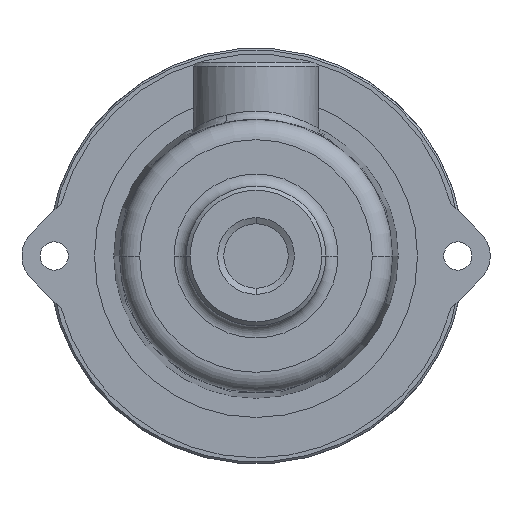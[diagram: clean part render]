
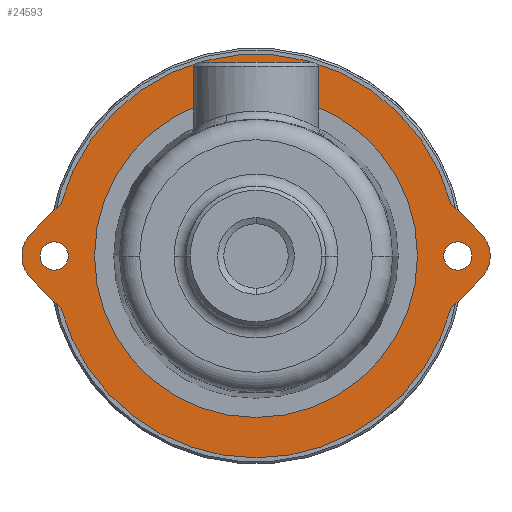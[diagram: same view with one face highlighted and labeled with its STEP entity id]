
A CAD part, front view. The second image highlights one B-rep face of the part: STEP entity #24593.
In plain terms, the highlighted planar face has unit normal (0, -1, 0) as drawn and (0, 0, 1) by its records, which use the part's own axes.
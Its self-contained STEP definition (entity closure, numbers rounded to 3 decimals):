
#11 = EDGE_CURVE ( 'NONE', #18980, #1051, #3175, .T. ) ;
#25 = EDGE_CURVE ( 'NONE', #16978, #12410, #18518, .T. ) ;
#101 = ORIENTED_EDGE ( 'NONE', *, *, #10461, .F. ) ;
#321 = VECTOR ( 'NONE', #3919, 1000. ) ;
#412 = EDGE_CURVE ( 'NONE', #19554, #16978, #1081, .T. ) ;
#419 = DIRECTION ( 'NONE',  ( 0.707, -0.707, 0. ) ) ;
#486 = AXIS2_PLACEMENT_3D ( 'NONE', #17166, #5681, #19118 ) ;
#490 = VECTOR ( 'NONE', #11690, 1000. ) ;
#619 = AXIS2_PLACEMENT_3D ( 'NONE', #1482, #14889, #3363 ) ;
#623 = EDGE_CURVE ( 'NONE', #15943, #5380, #23538, .T. ) ;
#823 = CIRCLE ( 'NONE', #486, 50. ) ;
#1028 = EDGE_CURVE ( 'NONE', #2257, #19554, #10670, .T. ) ;
#1051 = VERTEX_POINT ( 'NONE', #21048 ) ;
#1081 = LINE ( 'NONE', #5727, #490 ) ;
#1152 = DIRECTION ( 'NONE',  ( 0., 0., 1. ) ) ;
#1482 = CARTESIAN_POINT ( 'NONE',  ( 0., 0., 2. ) ) ;
#1545 = VERTEX_POINT ( 'NONE', #8453 ) ;
#1731 = FACE_BOUND ( 'NONE', #6393, .T. ) ;
#2257 = VERTEX_POINT ( 'NONE', #4159 ) ;
#2615 = DIRECTION ( 'NONE',  ( 0., 0., 1. ) ) ;
#2637 = EDGE_CURVE ( 'NONE', #14208, #20504, #10798, .T. ) ;
#2645 = AXIS2_PLACEMENT_3D ( 'NONE', #22394, #10923, #24281 ) ;
#2900 = CARTESIAN_POINT ( 'NONE',  ( -5.657, 55.657, 2. ) ) ;
#2963 = AXIS2_PLACEMENT_3D ( 'NONE', #22165, #10714, #24049 ) ;
#3065 = CARTESIAN_POINT ( 'NONE',  ( 0., -50., 2. ) ) ;
#3175 = CIRCLE ( 'NONE', #19698, 3.5 ) ;
#3359 = VERTEX_POINT ( 'NONE', #24476 ) ;
#3363 = DIRECTION ( 'NONE',  ( 1., 0., 0. ) ) ;
#3389 = CARTESIAN_POINT ( 'NONE',  ( 5.657, -55.657, 2. ) ) ;
#3544 = EDGE_LOOP ( 'NONE', ( #4182, #101 ) ) ;
#3754 = CARTESIAN_POINT ( 'NONE',  ( 0., 0., 2. ) ) ;
#3866 = ORIENTED_EDGE ( 'NONE', *, *, #15806, .F. ) ;
#3919 = DIRECTION ( 'NONE',  ( -0.707, -0.707, 0. ) ) ;
#4159 = CARTESIAN_POINT ( 'NONE',  ( 13.046, -48.268, 2. ) ) ;
#4182 = ORIENTED_EDGE ( 'NONE', *, *, #623, .F. ) ;
#4612 = ORIENTED_EDGE ( 'NONE', *, *, #11, .F. ) ;
#4794 = DIRECTION ( 'NONE',  ( 0., 0., 1. ) ) ;
#4950 = EDGE_LOOP ( 'NONE', ( #6612, #11737, #22574, #12362, #7088, #9356, #14817, #17689, #22978 ) ) ;
#5010 = DIRECTION ( 'NONE',  ( 1., 0., 0. ) ) ;
#5233 = DIRECTION ( 'NONE',  ( 0., 0., 1. ) ) ;
#5380 = VERTEX_POINT ( 'NONE', #21642 ) ;
#5681 = DIRECTION ( 'NONE',  ( 0., 0., 1. ) ) ;
#5702 = DIRECTION ( 'NONE',  ( 1., 0., 0. ) ) ;
#5727 = CARTESIAN_POINT ( 'NONE',  ( 5.657, 55.657, 2. ) ) ;
#5910 = VECTOR ( 'NONE', #419, 1000. ) ;
#6237 = FACE_OUTER_BOUND ( 'NONE', #4950, .T. ) ;
#6276 = CARTESIAN_POINT ( 'NONE',  ( 0., 0., 2. ) ) ;
#6393 = EDGE_LOOP ( 'NONE', ( #4612, #22100 ) ) ;
#6471 = EDGE_CURVE ( 'NONE', #1051, #18980, #12506, .T. ) ;
#6548 = AXIS2_PLACEMENT_3D ( 'NONE', #16273, #4794, #18246 ) ;
#6560 = VECTOR ( 'NONE', #12963, 1000. ) ;
#6612 = ORIENTED_EDGE ( 'NONE', *, *, #22969, .T. ) ;
#6868 = DIRECTION ( 'NONE',  ( 1., 0., 0. ) ) ;
#7088 = ORIENTED_EDGE ( 'NONE', *, *, #25, .T. ) ;
#7989 = AXIS2_PLACEMENT_3D ( 'NONE', #14092, #2615, #16025 ) ;
#8201 = DIRECTION ( 'NONE',  ( 1., 0., 0. ) ) ;
#8453 = CARTESIAN_POINT ( 'NONE',  ( 5.657, -55.657, 2. ) ) ;
#8779 = CARTESIAN_POINT ( 'NONE',  ( 0., 50., 2. ) ) ;
#8795 = VERTEX_POINT ( 'NONE', #17163 ) ;
#8921 = VERTEX_POINT ( 'NONE', #17344 ) ;
#9044 = EDGE_LOOP ( 'NONE', ( #13091, #3866 ) ) ;
#9356 = ORIENTED_EDGE ( 'NONE', *, *, #19475, .T. ) ;
#10461 = EDGE_CURVE ( 'NONE', #5380, #15943, #14020, .T. ) ;
#10670 = CIRCLE ( 'NONE', #22892, 50. ) ;
#10706 = EDGE_CURVE ( 'NONE', #3359, #23261, #823, .T. ) ;
#10714 = DIRECTION ( 'NONE',  ( 0., 0., 1. ) ) ;
#10798 = CIRCLE ( 'NONE', #619, 40. ) ;
#10923 = DIRECTION ( 'NONE',  ( 0., 0., 1. ) ) ;
#11310 = LINE ( 'NONE', #3389, #6560 ) ;
#11619 = LINE ( 'NONE', #17698, #5910 ) ;
#11690 = DIRECTION ( 'NONE',  ( -0.707, 0.707, 0. ) ) ;
#11737 = ORIENTED_EDGE ( 'NONE', *, *, #23609, .T. ) ;
#11741 = CARTESIAN_POINT ( 'NONE',  ( -13.046, -48.268, 2. ) ) ;
#11831 = CARTESIAN_POINT ( 'NONE',  ( 13.046, 48.268, 2. ) ) ;
#12362 = ORIENTED_EDGE ( 'NONE', *, *, #412, .T. ) ;
#12410 = VERTEX_POINT ( 'NONE', #2900 ) ;
#12506 = CIRCLE ( 'NONE', #22676, 3.5 ) ;
#12626 = DIRECTION ( 'NONE',  ( 1., 0., 0. ) ) ;
#12963 = DIRECTION ( 'NONE',  ( 0.707, 0.707, 0. ) ) ;
#13091 = ORIENTED_EDGE ( 'NONE', *, *, #2637, .F. ) ;
#13496 = CARTESIAN_POINT ( 'NONE',  ( -5.657, 55.657, 2. ) ) ;
#14020 = CIRCLE ( 'NONE', #24533, 3.5 ) ;
#14092 = CARTESIAN_POINT ( 'NONE',  ( 0., -50., 2. ) ) ;
#14208 = VERTEX_POINT ( 'NONE', #16559 ) ;
#14541 = CARTESIAN_POINT ( 'NONE',  ( 0., 50., 2. ) ) ;
#14817 = ORIENTED_EDGE ( 'NONE', *, *, #23937, .T. ) ;
#14889 = DIRECTION ( 'NONE',  ( 0., 0., 1. ) ) ;
#15682 = AXIS2_PLACEMENT_3D ( 'NONE', #6276, #19686, #8201 ) ;
#15806 = EDGE_CURVE ( 'NONE', #20504, #14208, #18470, .T. ) ;
#15835 = FACE_BOUND ( 'NONE', #9044, .T. ) ;
#15943 = VERTEX_POINT ( 'NONE', #16796 ) ;
#16025 = DIRECTION ( 'NONE',  ( 1., 0., 0. ) ) ;
#16273 = CARTESIAN_POINT ( 'NONE',  ( 0., -50., 2. ) ) ;
#16506 = DIRECTION ( 'NONE',  ( 0., 0., 1. ) ) ;
#16559 = CARTESIAN_POINT ( 'NONE',  ( -40., 0., 2. ) ) ;
#16722 = CARTESIAN_POINT ( 'NONE',  ( 0., 50., 2. ) ) ;
#16796 = CARTESIAN_POINT ( 'NONE',  ( 3.5, -50., 2. ) ) ;
#16978 = VERTEX_POINT ( 'NONE', #17756 ) ;
#17163 = CARTESIAN_POINT ( 'NONE',  ( -5.657, -55.657, 2. ) ) ;
#17166 = CARTESIAN_POINT ( 'NONE',  ( 0., 0., 2. ) ) ;
#17183 = DIRECTION ( 'NONE',  ( 0., 0., 1. ) ) ;
#17344 = CARTESIAN_POINT ( 'NONE',  ( -13.046, 48.268, 2. ) ) ;
#17689 = ORIENTED_EDGE ( 'NONE', *, *, #10706, .T. ) ;
#17698 = CARTESIAN_POINT ( 'NONE',  ( -5.657, -55.657, 2. ) ) ;
#17756 = CARTESIAN_POINT ( 'NONE',  ( 5.657, 55.657, 2. ) ) ;
#18246 = DIRECTION ( 'NONE',  ( 1., 0., 0. ) ) ;
#18470 = CIRCLE ( 'NONE', #2963, 40. ) ;
#18518 = CIRCLE ( 'NONE', #22240, 8. ) ;
#18667 = DIRECTION ( 'NONE',  ( 1., 0., 0. ) ) ;
#18980 = VERTEX_POINT ( 'NONE', #23876 ) ;
#19118 = DIRECTION ( 'NONE',  ( 1., 0., 0. ) ) ;
#19475 = EDGE_CURVE ( 'NONE', #12410, #8921, #20708, .T. ) ;
#19554 = VERTEX_POINT ( 'NONE', #11831 ) ;
#19686 = DIRECTION ( 'NONE',  ( 0., 0., 1. ) ) ;
#19698 = AXIS2_PLACEMENT_3D ( 'NONE', #14541, #1152, #12626 ) ;
#20264 = DIRECTION ( 'NONE',  ( 0., 0., 1. ) ) ;
#20504 = VERTEX_POINT ( 'NONE', #24068 ) ;
#20708 = LINE ( 'NONE', #13496, #321 ) ;
#20928 = FACE_BOUND ( 'NONE', #3544, .T. ) ;
#21048 = CARTESIAN_POINT ( 'NONE',  ( -3.5, 50., 2. ) ) ;
#21557 = CIRCLE ( 'NONE', #15682, 50. ) ;
#21642 = CARTESIAN_POINT ( 'NONE',  ( -3.5, -50., 2. ) ) ;
#22100 = ORIENTED_EDGE ( 'NONE', *, *, #6471, .F. ) ;
#22165 = CARTESIAN_POINT ( 'NONE',  ( 0., 0., 2. ) ) ;
#22240 = AXIS2_PLACEMENT_3D ( 'NONE', #8779, #20264, #6868 ) ;
#22394 = CARTESIAN_POINT ( 'NONE',  ( 0., -50., 2. ) ) ;
#22574 = ORIENTED_EDGE ( 'NONE', *, *, #1028, .T. ) ;
#22676 = AXIS2_PLACEMENT_3D ( 'NONE', #16722, #5233, #18667 ) ;
#22709 = CIRCLE ( 'NONE', #2645, 8. ) ;
#22892 = AXIS2_PLACEMENT_3D ( 'NONE', #3754, #17183, #5702 ) ;
#22969 = EDGE_CURVE ( 'NONE', #8795, #1545, #22709, .T. ) ;
#22978 = ORIENTED_EDGE ( 'NONE', *, *, #23333, .T. ) ;
#23261 = VERTEX_POINT ( 'NONE', #11741 ) ;
#23333 = EDGE_CURVE ( 'NONE', #23261, #8795, #11619, .T. ) ;
#23538 = CIRCLE ( 'NONE', #7989, 3.5 ) ;
#23609 = EDGE_CURVE ( 'NONE', #1545, #2257, #11310, .T. ) ;
#23780 = PLANE ( 'NONE',  #6548 ) ;
#23876 = CARTESIAN_POINT ( 'NONE',  ( 3.5, 50., 2. ) ) ;
#23937 = EDGE_CURVE ( 'NONE', #8921, #3359, #21557, .T. ) ;
#24049 = DIRECTION ( 'NONE',  ( 1., 0., 0. ) ) ;
#24068 = CARTESIAN_POINT ( 'NONE',  ( 40., 0., 2. ) ) ;
#24281 = DIRECTION ( 'NONE',  ( 1., 0., 0. ) ) ;
#24476 = CARTESIAN_POINT ( 'NONE',  ( -50., 0., 2. ) ) ;
#24533 = AXIS2_PLACEMENT_3D ( 'NONE', #3065, #16506, #5010 ) ;
#24593 = ADVANCED_FACE ( 'NONE', ( #20928, #1731, #6237, #15835 ), #23780, .T. ) ;
